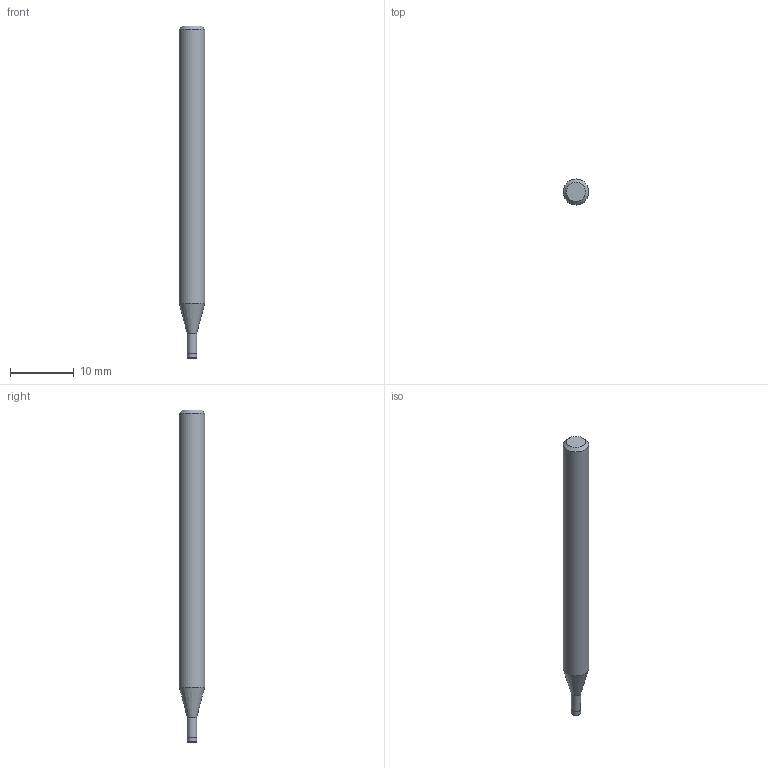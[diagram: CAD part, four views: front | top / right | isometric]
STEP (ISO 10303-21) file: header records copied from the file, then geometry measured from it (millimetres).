
FILE_DESCRIPTION((''),'2;1');
FILE_NAME('C:\Users\nsx150\AppData\Local\Temp\Mastercam 2021\LJSIDMOTM8\TEMP.step','2021-08-03T14:22:03',(''),(''),'STEP Write','Mastercam 2021 ... CNC Software, Inc.','');
FILE_SCHEMA(('AUTOMOTIVE_DESIGN'));
Length unit declared in the file: millimetre
Products named in the file (1): None
Bounding box: 4 x 4 x 52 mm (x, y, z)
Volume: 580.6 mm3; surface area: 619 mm2
Topology: 2 solids, 2 shells, 10 faces, 14 edges, 8 vertices
Faces by surface type: plane 4, cylinder 3, cone 2, torus 1
Full cylindrical faces by diameter (mm): 1.45 x1, 1.5 x1, 4 x1
Entity records: 232 total; most frequent: DIRECTION 40, CARTESIAN_POINT 28, AXIS2_PLACEMENT_3D 20, ORIENTED_EDGE 16, EDGE_LOOP 16, STYLED_ITEM 13, ADVANCED_FACE 10, FACE_BOUND 10
